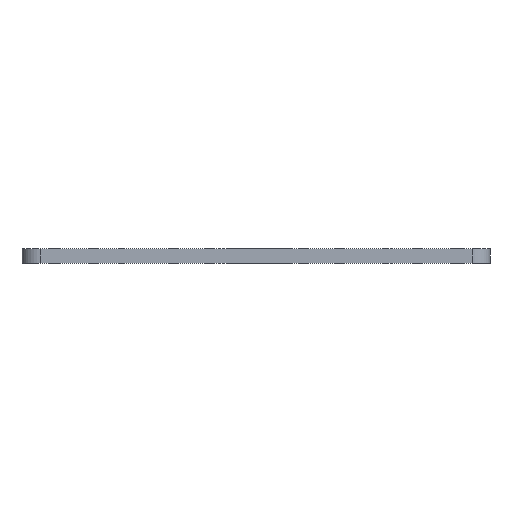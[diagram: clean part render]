
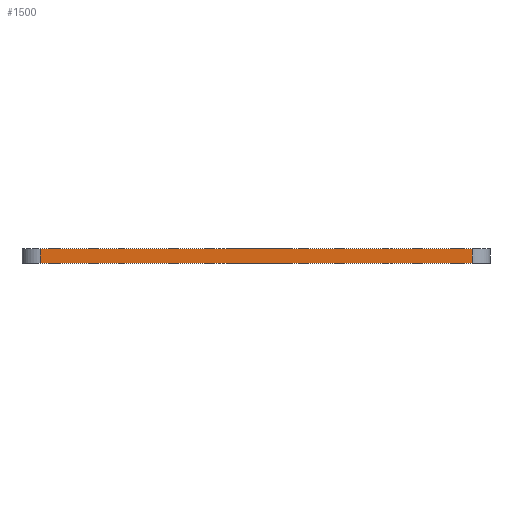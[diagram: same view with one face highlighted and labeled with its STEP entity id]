
A CAD part, front view. The second image highlights one B-rep face of the part: STEP entity #1500.
In plain terms, the highlighted planar face has unit normal (0, -1, 0).
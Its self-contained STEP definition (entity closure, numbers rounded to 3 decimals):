
#44 = PLANE('',#45);
#45 = AXIS2_PLACEMENT_3D('',#46,#47,#48);
#46 = CARTESIAN_POINT('',(0.,0.,4.));
#47 = DIRECTION('',(0.,0.,1.));
#48 = DIRECTION('',(1.,0.,0.));
#72 = CYLINDRICAL_SURFACE('',#73,5.);
#73 = AXIS2_PLACEMENT_3D('',#74,#75,#76);
#74 = CARTESIAN_POINT('',(5.,5.,0.));
#75 = DIRECTION('',(0.,0.,1.));
#76 = DIRECTION('',(-1.,-0.,0.));
#100 = PLANE('',#101);
#101 = AXIS2_PLACEMENT_3D('',#102,#103,#104);
#102 = CARTESIAN_POINT('',(0.,0.,0.));
#103 = DIRECTION('',(0.,0.,1.));
#104 = DIRECTION('',(1.,0.,0.));
#143 = VERTEX_POINT('',#144);
#144 = CARTESIAN_POINT('',(5.,0.,4.));
#166 = EDGE_CURVE('',#143,#167,#169,.T.);
#167 = VERTEX_POINT('',#168);
#168 = CARTESIAN_POINT('',(125.,0.,4.));
#169 = SURFACE_CURVE('',#170,(#174,#181),.PCURVE_S1.);
#170 = LINE('',#171,#172);
#171 = CARTESIAN_POINT('',(0.,0.,4.));
#172 = VECTOR('',#173,1.);
#173 = DIRECTION('',(1.,0.,0.));
#174 = PCURVE('',#44,#175);
#175 = DEFINITIONAL_REPRESENTATION('',(#176),#180);
#176 = LINE('',#177,#178);
#177 = CARTESIAN_POINT('',(0.,0.));
#178 = VECTOR('',#179,1.);
#179 = DIRECTION('',(1.,0.));
#180 = ( GEOMETRIC_REPRESENTATION_CONTEXT(2) 
PARAMETRIC_REPRESENTATION_CONTEXT() REPRESENTATION_CONTEXT('2D SPACE',''
  ) );
#181 = PCURVE('',#182,#187);
#182 = PLANE('',#183);
#183 = AXIS2_PLACEMENT_3D('',#184,#185,#186);
#184 = CARTESIAN_POINT('',(0.,0.,0.));
#185 = DIRECTION('',(0.,1.,0.));
#186 = DIRECTION('',(0.,0.,1.));
#187 = DEFINITIONAL_REPRESENTATION('',(#188),#192);
#188 = LINE('',#189,#190);
#189 = CARTESIAN_POINT('',(4.,0.));
#190 = VECTOR('',#191,1.);
#191 = DIRECTION('',(0.,1.));
#192 = ( GEOMETRIC_REPRESENTATION_CONTEXT(2) 
PARAMETRIC_REPRESENTATION_CONTEXT() REPRESENTATION_CONTEXT('2D SPACE',''
  ) );
#215 = CYLINDRICAL_SURFACE('',#216,5.);
#216 = AXIS2_PLACEMENT_3D('',#217,#218,#219);
#217 = CARTESIAN_POINT('',(125.,5.,0.));
#218 = DIRECTION('',(0.,0.,1.));
#219 = DIRECTION('',(1.,0.,-0.));
#1054 = VERTEX_POINT('',#1055);
#1055 = CARTESIAN_POINT('',(5.,0.,0.));
#1077 = EDGE_CURVE('',#1054,#143,#1078,.T.);
#1078 = SURFACE_CURVE('',#1079,(#1083,#1090),.PCURVE_S1.);
#1079 = LINE('',#1080,#1081);
#1080 = CARTESIAN_POINT('',(5.,0.,0.));
#1081 = VECTOR('',#1082,1.);
#1082 = DIRECTION('',(0.,0.,1.));
#1083 = PCURVE('',#72,#1084);
#1084 = DEFINITIONAL_REPRESENTATION('',(#1085),#1089);
#1085 = LINE('',#1086,#1087);
#1086 = CARTESIAN_POINT('',(1.571,0.));
#1087 = VECTOR('',#1088,1.);
#1088 = DIRECTION('',(0.,1.));
#1089 = ( GEOMETRIC_REPRESENTATION_CONTEXT(2) 
PARAMETRIC_REPRESENTATION_CONTEXT() REPRESENTATION_CONTEXT('2D SPACE',''
  ) );
#1090 = PCURVE('',#182,#1091);
#1091 = DEFINITIONAL_REPRESENTATION('',(#1092),#1096);
#1092 = LINE('',#1093,#1094);
#1093 = CARTESIAN_POINT('',(0.,5.));
#1094 = VECTOR('',#1095,1.);
#1095 = DIRECTION('',(1.,0.));
#1096 = ( GEOMETRIC_REPRESENTATION_CONTEXT(2) 
PARAMETRIC_REPRESENTATION_CONTEXT() REPRESENTATION_CONTEXT('2D SPACE',''
  ) );
#1159 = EDGE_CURVE('',#1054,#1160,#1162,.T.);
#1160 = VERTEX_POINT('',#1161);
#1161 = CARTESIAN_POINT('',(125.,0.,0.));
#1162 = SURFACE_CURVE('',#1163,(#1167,#1174),.PCURVE_S1.);
#1163 = LINE('',#1164,#1165);
#1164 = CARTESIAN_POINT('',(0.,0.,0.));
#1165 = VECTOR('',#1166,1.);
#1166 = DIRECTION('',(1.,0.,0.));
#1167 = PCURVE('',#100,#1168);
#1168 = DEFINITIONAL_REPRESENTATION('',(#1169),#1173);
#1169 = LINE('',#1170,#1171);
#1170 = CARTESIAN_POINT('',(0.,0.));
#1171 = VECTOR('',#1172,1.);
#1172 = DIRECTION('',(1.,0.));
#1173 = ( GEOMETRIC_REPRESENTATION_CONTEXT(2) 
PARAMETRIC_REPRESENTATION_CONTEXT() REPRESENTATION_CONTEXT('2D SPACE',''
  ) );
#1174 = PCURVE('',#182,#1175);
#1175 = DEFINITIONAL_REPRESENTATION('',(#1176),#1180);
#1176 = LINE('',#1177,#1178);
#1177 = CARTESIAN_POINT('',(0.,0.));
#1178 = VECTOR('',#1179,1.);
#1179 = DIRECTION('',(0.,1.));
#1180 = ( GEOMETRIC_REPRESENTATION_CONTEXT(2) 
PARAMETRIC_REPRESENTATION_CONTEXT() REPRESENTATION_CONTEXT('2D SPACE',''
  ) );
#1500 = ADVANCED_FACE('',(#1501),#182,.F.);
#1501 = FACE_BOUND('',#1502,.F.);
#1502 = EDGE_LOOP('',(#1503,#1504,#1505,#1506));
#1503 = ORIENTED_EDGE('',*,*,#1159,.F.);
#1504 = ORIENTED_EDGE('',*,*,#1077,.T.);
#1505 = ORIENTED_EDGE('',*,*,#166,.T.);
#1506 = ORIENTED_EDGE('',*,*,#1507,.F.);
#1507 = EDGE_CURVE('',#1160,#167,#1508,.T.);
#1508 = SURFACE_CURVE('',#1509,(#1513,#1520),.PCURVE_S1.);
#1509 = LINE('',#1510,#1511);
#1510 = CARTESIAN_POINT('',(125.,0.,0.));
#1511 = VECTOR('',#1512,1.);
#1512 = DIRECTION('',(0.,0.,1.));
#1513 = PCURVE('',#182,#1514);
#1514 = DEFINITIONAL_REPRESENTATION('',(#1515),#1519);
#1515 = LINE('',#1516,#1517);
#1516 = CARTESIAN_POINT('',(0.,125.));
#1517 = VECTOR('',#1518,1.);
#1518 = DIRECTION('',(1.,0.));
#1519 = ( GEOMETRIC_REPRESENTATION_CONTEXT(2) 
PARAMETRIC_REPRESENTATION_CONTEXT() REPRESENTATION_CONTEXT('2D SPACE',''
  ) );
#1520 = PCURVE('',#215,#1521);
#1521 = DEFINITIONAL_REPRESENTATION('',(#1522),#1526);
#1522 = LINE('',#1523,#1524);
#1523 = CARTESIAN_POINT('',(-1.571,0.));
#1524 = VECTOR('',#1525,1.);
#1525 = DIRECTION('',(-0.,1.));
#1526 = ( GEOMETRIC_REPRESENTATION_CONTEXT(2) 
PARAMETRIC_REPRESENTATION_CONTEXT() REPRESENTATION_CONTEXT('2D SPACE',''
  ) );
